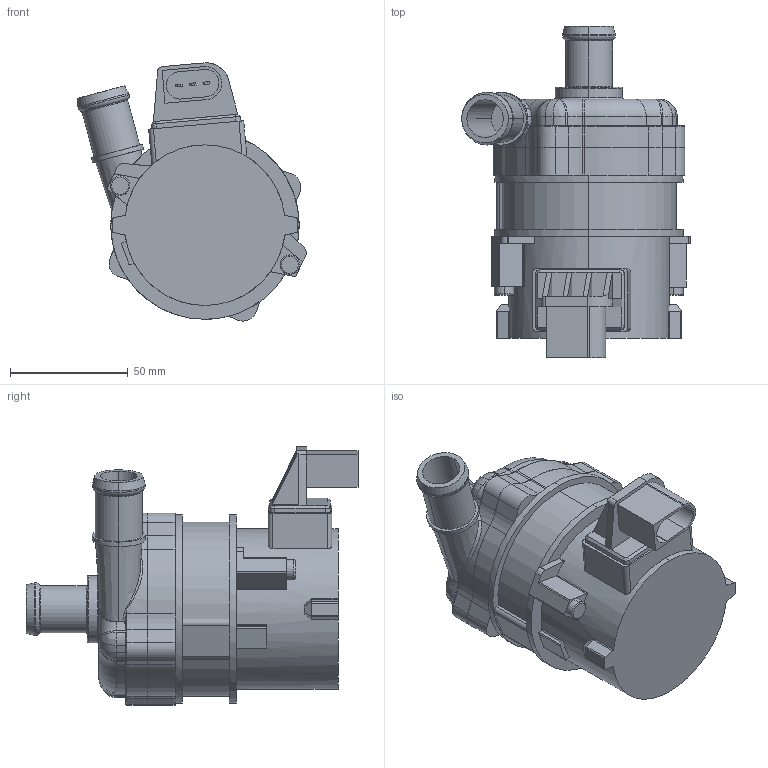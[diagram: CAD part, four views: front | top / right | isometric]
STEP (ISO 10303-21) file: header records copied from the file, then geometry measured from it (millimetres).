
FILE_DESCRIPTION (( 'STEP AP214' ), '1' );
FILE_NAME ('CWA150.STEP', '2020-12-01T17:23:53', ( '' ), ( '' ), 'STEP 2.0', 'Tecomotive 2020', '' );
FILE_SCHEMA (( 'AUTOMOTIVE_DESIGN' ));
Length unit declared in the file: millimetre
Products named in the file (1): CWA150
Bounding box: 97.07 x 141 x 109.63 mm (x, y, z)
Volume: 455283.1 mm3; surface area: 52450.2 mm2
Topology: 1 solids, 1 shells, 418 faces, 1072 edges, 666 vertices
Faces by surface type: cylinder 173, plane 160, torus 55, bspline 20, cone 10
Entity records: 18984 total; most frequent: CARTESIAN_POINT 5884, DIRECTION 2259, ORIENTED_EDGE 2128, EDGE_CURVE 1064, AXIS2_PLACEMENT_3D 866, VERTEX_POINT 666, LINE 527, VECTOR 527
